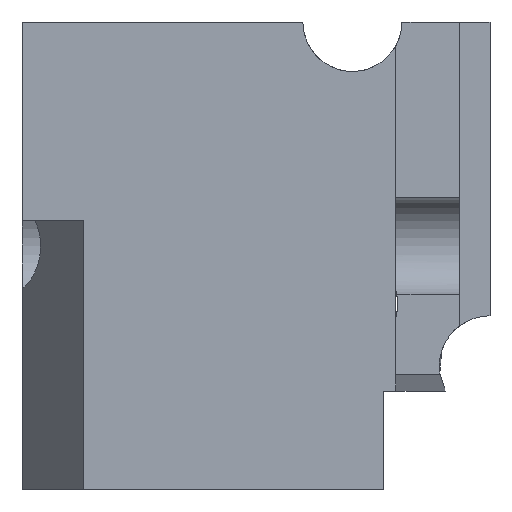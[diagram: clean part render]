
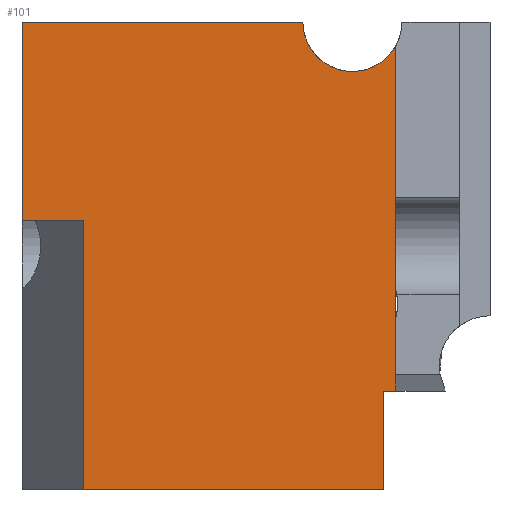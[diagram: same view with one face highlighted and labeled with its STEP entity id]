
A CAD part, left-side view. The second image highlights one B-rep face of the part: STEP entity #101.
In plain terms, the highlighted planar face has unit normal (-1, 0, 0).
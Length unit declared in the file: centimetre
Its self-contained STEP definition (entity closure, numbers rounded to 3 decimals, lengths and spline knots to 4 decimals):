
#20 = VERTEX_POINT ( 'NONE', #676 ) ;
#28 = CARTESIAN_POINT ( 'NONE',  ( 0., 869.2492, 575.6701 ) ) ;
#35 = DIRECTION ( 'NONE',  ( 0., 0., 1. ) ) ;
#86 = CARTESIAN_POINT ( 'NONE',  ( 0., 226.823, 211.5083 ) ) ;
#101 = ADVANCED_FACE ( 'NONE', ( #1577 ), #439, .F. ) ;
#128 = EDGE_CURVE ( 'NONE', #710, #1471, #976, .T. ) ;
#129 = ORIENTED_EDGE ( 'NONE', *, *, #309, .T. ) ;
#141 = EDGE_CURVE ( 'NONE', #777, #1471, #1210, .T. ) ;
#147 = CARTESIAN_POINT ( 'NONE',  ( 0., 1000., 0. ) ) ;
#186 = DIRECTION ( 'NONE',  ( 0., 1., 0. ) ) ;
#288 = VERTEX_POINT ( 'NONE', #1510 ) ;
#291 = DIRECTION ( 'NONE',  ( 0., 0., -1. ) ) ;
#309 = EDGE_CURVE ( 'NONE', #1616, #288, #882, .T. ) ;
#349 = EDGE_CURVE ( 'NONE', #1590, #777, #494, .T. ) ;
#375 = VERTEX_POINT ( 'NONE', #1171 ) ;
#394 = CARTESIAN_POINT ( 'NONE',  ( 0., 869.2492, 0. ) ) ;
#427 = VECTOR ( 'NONE', #291, 100. ) ;
#429 = EDGE_CURVE ( 'NONE', #710, #288, #918, .T. ) ;
#439 = PLANE ( 'NONE',  #1417 ) ;
#449 = DIRECTION ( 'NONE',  ( 1., 0., 0. ) ) ;
#450 = VECTOR ( 'NONE', #1259, 100. ) ;
#488 = CARTESIAN_POINT ( 'NONE',  ( 0., 201.8419, 1000. ) ) ;
#494 = CIRCLE ( 'NONE', #652, 105.7633 ) ;
#521 = DIRECTION ( 'NONE',  ( 0., 0., -1. ) ) ;
#652 = AXIS2_PLACEMENT_3D ( 'NONE', #1535, #900, #35 ) ;
#676 = CARTESIAN_POINT ( 'NONE',  ( 0., 1000., 1000. ) ) ;
#701 = EDGE_CURVE ( 'NONE', #1413, #1616, #1516, .T. ) ;
#710 = VERTEX_POINT ( 'NONE', #877 ) ;
#736 = CARTESIAN_POINT ( 'NONE',  ( 0., 869.2492, 575.6701 ) ) ;
#744 = EDGE_CURVE ( 'NONE', #20, #375, #750, .T. ) ;
#750 = LINE ( 'NONE', #1249, #1483 ) ;
#758 = DIRECTION ( 'NONE',  ( 0., 0., -1. ) ) ;
#777 = VERTEX_POINT ( 'NONE', #1123 ) ;
#808 = DIRECTION ( 'NONE',  ( 0., 0., -1. ) ) ;
#826 = VECTOR ( 'NONE', #1116, 100. ) ;
#859 = CARTESIAN_POINT ( 'NONE',  ( 0., 1000., 1000. ) ) ;
#877 = CARTESIAN_POINT ( 'NONE',  ( 0., 226.823, 211.5083 ) ) ;
#882 = LINE ( 'NONE', #147, #450 ) ;
#900 = DIRECTION ( 'NONE',  ( -1., 0., 0. ) ) ;
#918 = LINE ( 'NONE', #1419, #427 ) ;
#934 = CARTESIAN_POINT ( 'NONE',  ( 0., 1000., 1000. ) ) ;
#970 = ORIENTED_EDGE ( 'NONE', *, *, #1549, .F. ) ;
#974 = LINE ( 'NONE', #859, #826 ) ;
#976 = LINE ( 'NONE', #86, #988 ) ;
#988 = VECTOR ( 'NONE', #1224, 100. ) ;
#1015 = EDGE_CURVE ( 'NONE', #20, #1590, #974, .T. ) ;
#1019 = EDGE_LOOP ( 'NONE', ( #1342, #1181, #1261, #1482, #1248, #970, #1094, #129, #1283 ) ) ;
#1032 = CARTESIAN_POINT ( 'NONE',  ( 0., 399.8051, 1000. ) ) ;
#1054 = LINE ( 'NONE', #1438, #1489 ) ;
#1094 = ORIENTED_EDGE ( 'NONE', *, *, #701, .T. ) ;
#1116 = DIRECTION ( 'NONE',  ( 0., -1., 0. ) ) ;
#1123 = CARTESIAN_POINT ( 'NONE',  ( 0., 201.8419, 948.1822 ) ) ;
#1171 = CARTESIAN_POINT ( 'NONE',  ( 0., 1000., 575.6701 ) ) ;
#1180 = CARTESIAN_POINT ( 'NONE',  ( 0., 201.8419, 211.5083 ) ) ;
#1181 = ORIENTED_EDGE ( 'NONE', *, *, #141, .F. ) ;
#1210 = LINE ( 'NONE', #488, #1311 ) ;
#1224 = DIRECTION ( 'NONE',  ( 0., -1., 0. ) ) ;
#1248 = ORIENTED_EDGE ( 'NONE', *, *, #744, .T. ) ;
#1249 = CARTESIAN_POINT ( 'NONE',  ( 0., 1000., 1000. ) ) ;
#1259 = DIRECTION ( 'NONE',  ( 0., -1., 0. ) ) ;
#1261 = ORIENTED_EDGE ( 'NONE', *, *, #349, .F. ) ;
#1283 = ORIENTED_EDGE ( 'NONE', *, *, #429, .F. ) ;
#1311 = VECTOR ( 'NONE', #1479, 100. ) ;
#1342 = ORIENTED_EDGE ( 'NONE', *, *, #128, .T. ) ;
#1352 = VECTOR ( 'NONE', #758, 100. ) ;
#1413 = VERTEX_POINT ( 'NONE', #28 ) ;
#1417 = AXIS2_PLACEMENT_3D ( 'NONE', #934, #449, #808 ) ;
#1419 = CARTESIAN_POINT ( 'NONE',  ( 0., 226.823, 211.5083 ) ) ;
#1438 = CARTESIAN_POINT ( 'NONE',  ( 0., 1000., 575.6701 ) ) ;
#1471 = VERTEX_POINT ( 'NONE', #1180 ) ;
#1479 = DIRECTION ( 'NONE',  ( 0., 0., -1. ) ) ;
#1482 = ORIENTED_EDGE ( 'NONE', *, *, #1015, .F. ) ;
#1483 = VECTOR ( 'NONE', #521, 100. ) ;
#1489 = VECTOR ( 'NONE', #186, 100. ) ;
#1510 = CARTESIAN_POINT ( 'NONE',  ( 0., 226.823, 0. ) ) ;
#1516 = LINE ( 'NONE', #736, #1352 ) ;
#1535 = CARTESIAN_POINT ( 'NONE',  ( 0., 294.0417, 1000. ) ) ;
#1549 = EDGE_CURVE ( 'NONE', #1413, #375, #1054, .T. ) ;
#1577 = FACE_OUTER_BOUND ( 'NONE', #1019, .T. ) ;
#1590 = VERTEX_POINT ( 'NONE', #1032 ) ;
#1616 = VERTEX_POINT ( 'NONE', #394 ) ;
